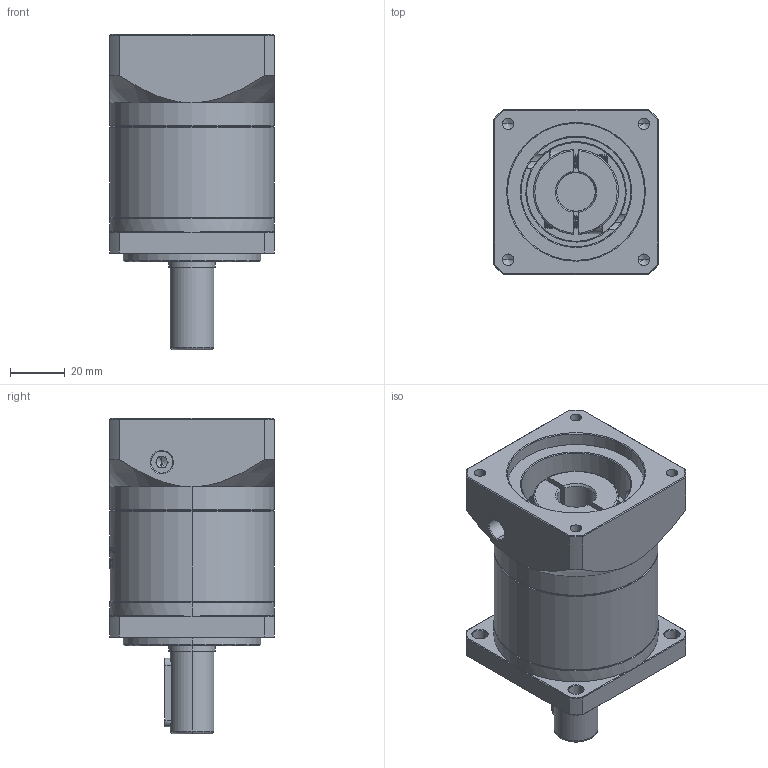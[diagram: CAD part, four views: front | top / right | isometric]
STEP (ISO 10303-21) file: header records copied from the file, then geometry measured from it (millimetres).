
FILE_DESCRIPTION (( 'STEP AP214' ), '1' );
FILE_NAME ('ZF60-D16-L1-14-50-70-M5.STEP', '2022-04-17T11:51:27', ( '' ), ( 'Microsoft' ), 'SwSTEP 2.0', 'SolidWorks 2016', '' );
FILE_SCHEMA (( 'AUTOMOTIVE_DESIGN' ));
Length unit declared in the file: millimetre
Products named in the file (1): ZF60-D16-L1-14-50-70-M5
Bounding box: 60 x 60 x 115 mm (x, y, z)
Volume: 222112.9 mm3; surface area: 43758.1 mm2
Topology: 6 solids, 6 shells, 1516 faces, 4075 edges, 2635 vertices
Faces by surface type: plane 736, bspline 287, cylinder 239, cone 236, torus 18
Entity records: 79622 total; most frequent: CARTESIAN_POINT 27964, ORIENTED_EDGE 8122, DIRECTION 6141, EDGE_CURVE 4061, VERTEX_POINT 2635, VECTOR 2125, LINE 2125, AXIS2_PLACEMENT_3D 2008
